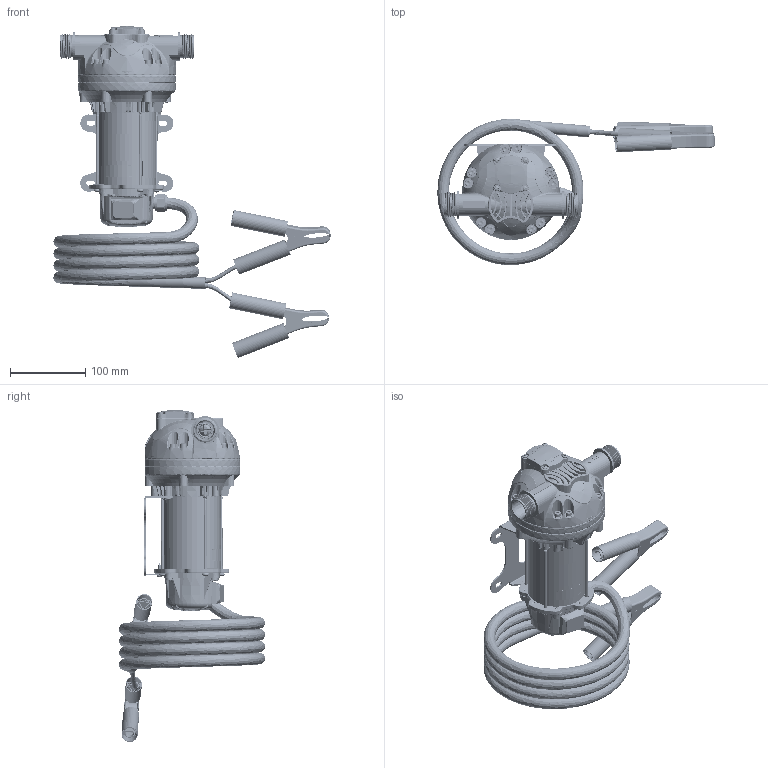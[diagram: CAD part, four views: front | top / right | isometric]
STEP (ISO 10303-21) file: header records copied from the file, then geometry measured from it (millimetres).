
FILE_DESCRIPTION(/* description */ (''),/* implementation_level */ '2;1');
FILE_NAME(/* name */ '180002-01.step',/* time_stamp */ '2025-07-25T11:56:27-05:00',/* author */ (''),/* organization */ (''),/* preprocessor_version */ 'ST-DEVELOPER v20.1',/* originating_system */ 'Autodesk Translation Framework v14.10.0.0',/* authorisation */ '');
FILE_SCHEMA (('AUTOMOTIVE_DESIGN { 1 0 10303 214 3 1 1 }'));
Length unit declared in the file: millimetre
Products named in the file (12): 180002-01; 905002-47; 180102-01; 180902-02; 922144-01; 180901-03; 922119-01; 905500-02; 180_PnBD01 Worm Drive Clamp; 180_PnBD01_JIETOULUOMU; 180_PnBD01_JIETOU; 180_PnBD01 Barb o-ring
Assembly tree (17 placements, depth 2):
  180002-01
    905002-47
    180102-01
    180902-02
    922144-01
    180901-03
    922119-01
    180_PnBD01_JIETOULUOMU  x2
    180_PnBD01_JIETOU  x2
    180_PnBD01 Barb o-ring  x2
    180_PnBD01 Worm Drive Clamp  x4
    905500-02
Bounding box: 369.41 x 194.53 x 442.36 mm (x, y, z)
Volume: 1295925.7 mm3; surface area: 734905.7 mm2
Topology: 91 solids, 91 shells, 11151 faces, 29178 edges, 18188 vertices
Faces by surface type: plane 3307, bspline 2767, cylinder 2658, torus 1226, cone 923, sphere 270
Full cylindrical faces by diameter (mm): 1.5 x5, 1.85 x4, 2.024 x5, 2.5 x4, 2.7 x40, 2.8 x13, 3 x2, 3.2 x24, 3.3 x31, 3.5 x33, 3.9 x31, 4 x12, 4.1 x5, 4.2 x63, 4.3 x11, 4.5 x12, 4.9 x404, 5 x7, 5.2 x15, 5.6 x5, 5.978 x4, 6 x10, 6.8 x5, 7 x3, 7.5 x1, 7.7 x5, 8 x11, 8.1 x1, 8.4 x10, 9.2 x1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
Entity records: 780251 total; most frequent: CARTESIAN_POINT 514985, ORIENTED_EDGE 57854, DIRECTION 47126, EDGE_CURVE 28927, AXIS2_PLACEMENT_3D 18722, VERTEX_POINT 18187, EDGE_LOOP 11796, FACE_OUTER_BOUND 11151
